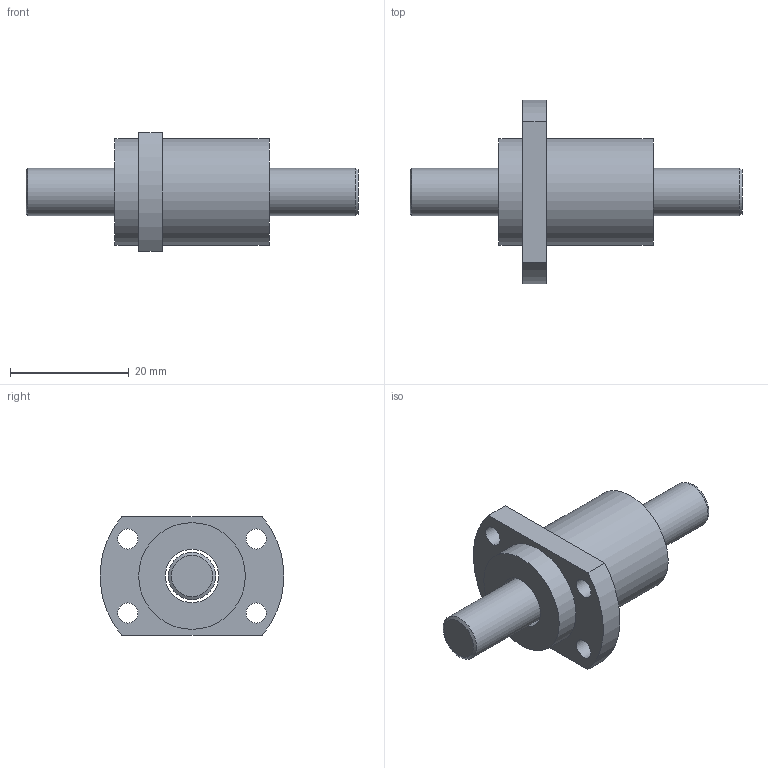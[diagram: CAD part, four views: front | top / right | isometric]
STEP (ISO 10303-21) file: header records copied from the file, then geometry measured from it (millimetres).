
FILE_DESCRIPTION(/* description */ (''),/* implementation_level */ '2;1');
FILE_NAME(/* name */ '',/* time_stamp */ '2020-12-24T14:23:53+08:00',/* author */ (''),/* organization */ (''),/* preprocessor_version */ 'ST-DEVELOPER v14',/* originating_system */ 'SIEMENS PLM Software NX 8.0',/* authorisation */ '');
FILE_SCHEMA (('AP203_CONFIGURATION_CONTROLLED_3D_DESIGN_OF_MECHANICAL_PARTS_AND_ASSEMBLIES_MIM_LF { 1 0 10303 403 2 1 2}'));
Length unit declared in the file: millimetre
Products named in the file (1): 00250FD0895Eticp
Bounding box: 56 x 30.91 x 20 mm (x, y, z)
Volume: 8905.5 mm3; surface area: 4958.2 mm2
Topology: 2 solids, 2 shells, 20 faces, 43 edges, 29 vertices
Faces by surface type: cylinder 10, plane 8, cone 2
Full cylindrical faces by diameter (mm): 3.4 x4, 8 x1, 9 x1, 18 x2
Entity records: 590 total; most frequent: DIRECTION 94, CARTESIAN_POINT 77, ORIENTED_EDGE 60, AXIS2_PLACEMENT_3D 43, EDGE_LOOP 42, FACE_BOUND 36, EDGE_CURVE 30, VERTEX_POINT 26
